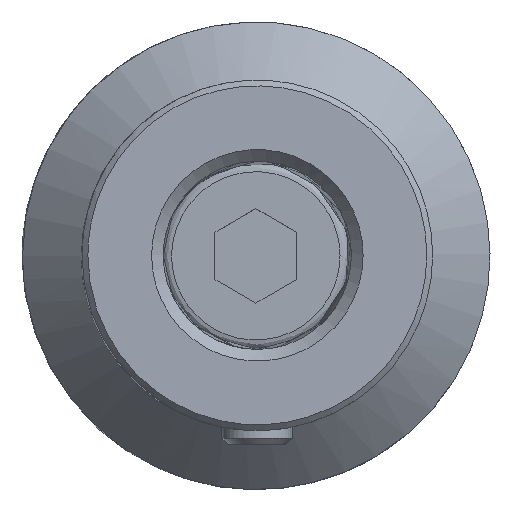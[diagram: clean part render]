
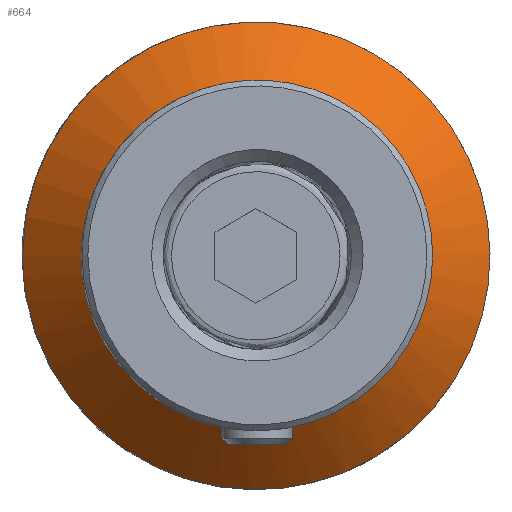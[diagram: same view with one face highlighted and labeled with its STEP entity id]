
A CAD part, top view. The second image highlights one B-rep face of the part: STEP entity #664.
In plain terms, the highlighted free-form (B-spline) face has degree [1, 2] with [2, 9] control points.
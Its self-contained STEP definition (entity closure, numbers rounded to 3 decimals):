
#301=CARTESIAN_POINT('',(20.,0.,11.));
#302=VERTEX_POINT('',#301);
#308=CARTESIAN_POINT('',(20.,0.,11.));
#309=CARTESIAN_POINT('',(20.,-20.,11.));
#310=CARTESIAN_POINT('',(0.,-20.,11.));
#311=CARTESIAN_POINT('',(-20.,-20.,11.));
#312=CARTESIAN_POINT('',(-20.,0.,11.));
#313=CARTESIAN_POINT('',(-20.,20.,11.));
#314=CARTESIAN_POINT('',(0.,20.,11.));
#315=CARTESIAN_POINT('',(20.,20.,11.));
#316=CARTESIAN_POINT('',(20.,0.,11.));
#317=(BOUNDED_CURVE()B_SPLINE_CURVE(2,(#308,#309,#310,#311,#312,#313,#314,#315,#316),.CIRCULAR_ARC.,.T.,.U.)B_SPLINE_CURVE_WITH_KNOTS((3,2,2,2,3),(0.,0.25,0.5,0.75,1.),.UNSPECIFIED.)CURVE()GEOMETRIC_REPRESENTATION_ITEM()RATIONAL_B_SPLINE_CURVE((1.,0.707,1.,0.707,1.,0.707,1.,0.707,1.))REPRESENTATION_ITEM(''));
#318=EDGE_CURVE('',#302,#302,#317,.T.);
#609=CARTESIAN_POINT('',(15.,0.,16.));
#610=VERTEX_POINT('',#609);
#616=CARTESIAN_POINT('',(15.,0.,16.));
#617=CARTESIAN_POINT('',(15.,-15.,16.));
#618=CARTESIAN_POINT('',(0.,-15.,16.));
#619=CARTESIAN_POINT('',(-15.,-15.,16.));
#620=CARTESIAN_POINT('',(-15.,0.,16.));
#621=CARTESIAN_POINT('',(-15.,15.,16.));
#622=CARTESIAN_POINT('',(0.,15.,16.));
#623=CARTESIAN_POINT('',(15.,15.,16.));
#624=CARTESIAN_POINT('',(15.,0.,16.));
#625=(BOUNDED_CURVE()B_SPLINE_CURVE(2,(#616,#617,#618,#619,#620,#621,#622,#623,#624),.CIRCULAR_ARC.,.T.,.U.)B_SPLINE_CURVE_WITH_KNOTS((3,2,2,2,3),(0.,0.25,0.5,0.75,1.),.UNSPECIFIED.)CURVE()GEOMETRIC_REPRESENTATION_ITEM()RATIONAL_B_SPLINE_CURVE((1.,0.707,1.,0.707,1.,0.707,1.,0.707,1.))REPRESENTATION_ITEM(''));
#626=EDGE_CURVE('',#610,#610,#625,.T.);
#635=CARTESIAN_POINT('',(20.,0.,11.));
#636=CARTESIAN_POINT('',(20.,-20.,11.));
#637=CARTESIAN_POINT('',(0.,-20.,11.));
#638=CARTESIAN_POINT('',(-20.,-20.,11.));
#639=CARTESIAN_POINT('',(-20.,0.,11.));
#640=CARTESIAN_POINT('',(-20.,20.,11.));
#641=CARTESIAN_POINT('',(0.,20.,11.));
#642=CARTESIAN_POINT('',(20.,20.,11.));
#643=CARTESIAN_POINT('',(20.,0.,11.));
#644=CARTESIAN_POINT('',(15.,0.,16.));
#645=CARTESIAN_POINT('',(15.,-15.,16.));
#646=CARTESIAN_POINT('',(0.,-15.,16.));
#647=CARTESIAN_POINT('',(-15.,-15.,16.));
#648=CARTESIAN_POINT('',(-15.,0.,16.));
#649=CARTESIAN_POINT('',(-15.,15.,16.));
#650=CARTESIAN_POINT('',(0.,15.,16.));
#651=CARTESIAN_POINT('',(15.,15.,16.));
#652=CARTESIAN_POINT('',(15.,0.,16.));
#653=(BOUNDED_SURFACE()B_SPLINE_SURFACE(1,2,((#635,#636,#637,#638,#639,#640,#641,#642,#643),(#644,#645,#646,#647,#648,#649,#650,#651,#652)),.GENERALISED_CONE.,.F.,.T.,.U.)B_SPLINE_SURFACE_WITH_KNOTS((2,2),(3,2,2,2,3),(0.,1.),(0.,0.25,0.5,0.75,1.),.UNSPECIFIED.)GEOMETRIC_REPRESENTATION_ITEM()RATIONAL_B_SPLINE_SURFACE(((1.,0.707,1.,0.707,1.,0.707,1.,0.707,1.),(1.,0.707,1.,0.707,1.,0.707,1.,0.707,1.)))REPRESENTATION_ITEM('')SURFACE());
#654=CARTESIAN_POINT('',(20.,0.,11.));
#655=CARTESIAN_POINT('',(15.,0.,16.));
#656=B_SPLINE_CURVE_WITH_KNOTS('',1,(#654,#655),.POLYLINE_FORM.,.F.,.U.,(2,2),(0.,1.),.UNSPECIFIED.);
#657=EDGE_CURVE('',#302,#610,#656,.T.);
#658=ORIENTED_EDGE('',*,*,#657,.F.);
#659=ORIENTED_EDGE('',*,*,#318,.F.);
#660=ORIENTED_EDGE('',*,*,#657,.T.);
#661=ORIENTED_EDGE('',*,*,#626,.T.);
#662=EDGE_LOOP('',(#658,#659,#660,#661));
#663=FACE_OUTER_BOUND('',#662,.T.);
#664=ADVANCED_FACE('',(#663),#653,.T.);
